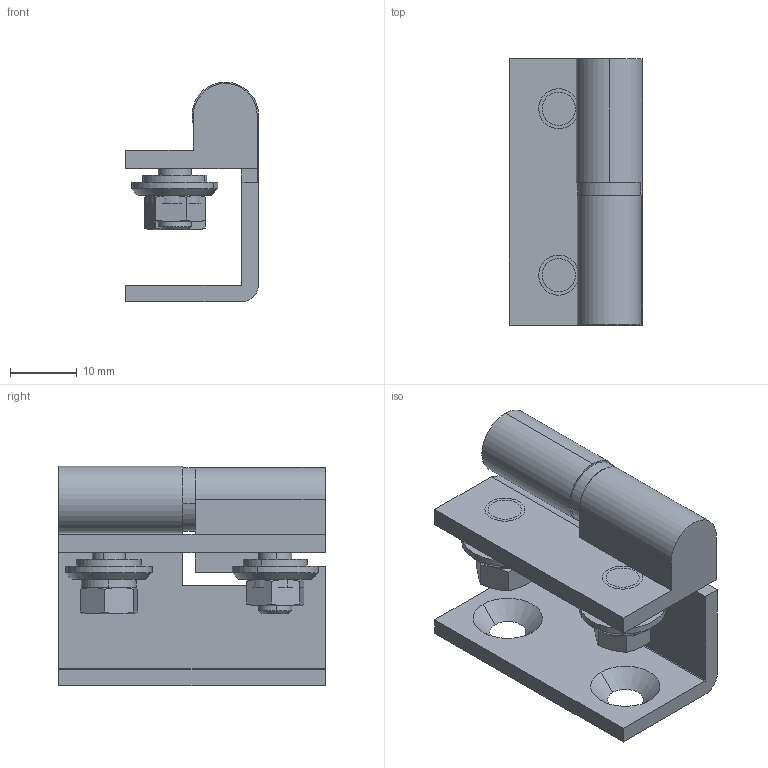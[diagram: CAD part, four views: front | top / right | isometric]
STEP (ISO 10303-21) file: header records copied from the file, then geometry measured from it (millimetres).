
FILE_DESCRIPTION (( 'STEP AP214' ), '1' );
FILE_NAME ('3.ZN140.002.STEP', '2010-02-10T14:15:40', ( 'Rak' ), ( 'ROZTOCZE' ), 'SwSTEP 2.0', 'SolidWorks 2004231', '' );
FILE_SCHEMA (( 'AUTOMOTIVE_DESIGN' ));
Length unit declared in the file: millimetre
Products named in the file (9): 3B.ZN140-œruba M5_Domyœlna1_Domyœlna_Domyœlna_Domyœlna; 3B.ZN140.01.01.00_Domyœlna1_Domyœlna_Domyœlna_Domyœlna; 3B.ZN140.01.01.01_Domyœlna1_Domyœlna_Domyœlna_Domyœlna; 3B.ZN140.03.00.01_Domyœlna1_Domyœlna_Domyœlna_Domyœlna; 3B.ZN140.01.03.00_Domyœlna1_Domyœlna_Domyœlna_Domyœlna; 3B.ZN140.03.00.02_Domyœlna1_Domyœlna_Domyœlna_Domyœlna; M5  DIN 934_Domyœlna; Podk³adka sprê¿ysta PN-78-N82008_Domyœlna; 3.ZN140.002
Assembly tree (12 placements, depth 2):
  3.ZN140.002
    3B.ZN140-œruba M5_Domyœlna1_Domyœlna_Domyœlna_Domyœlna  x2
    3B.ZN140.01.03.00_Domyœlna1_Domyœlna_Domyœlna_Domyœlna
    M5  DIN 934_Domyœlna  x2
    3B.ZN140.03.00.02_Domyœlna1_Domyœlna_Domyœlna_Domyœlna  x2
    Podk³adka sprê¿ysta PN-78-N82008_Domyœlna  x2
    3B.ZN140.03.00.01_Domyœlna1_Domyœlna_Domyœlna_Domyœlna
    3B.ZN140.01.01.01_Domyœlna1_Domyœlna_Domyœlna_Domyœlna
    3B.ZN140.01.01.00_Domyœlna1_Domyœlna_Domyœlna_Domyœlna
Bounding box: 20 x 40 x 33 mm (x, y, z)
Volume: 9967.9 mm3; surface area: 9652.3 mm2
Topology: 12 solids, 12 shells, 254 faces, 583 edges, 379 vertices
Faces by surface type: plane 162, cylinder 54, cone 38
Entity records: 8238 total; most frequent: CARTESIAN_POINT 1116, DIRECTION 1053, ORIENTED_EDGE 954, EDGE_CURVE 477, AXIS2_PLACEMENT_3D 374, VERTEX_POINT 313, VECTOR 305, LINE 305
